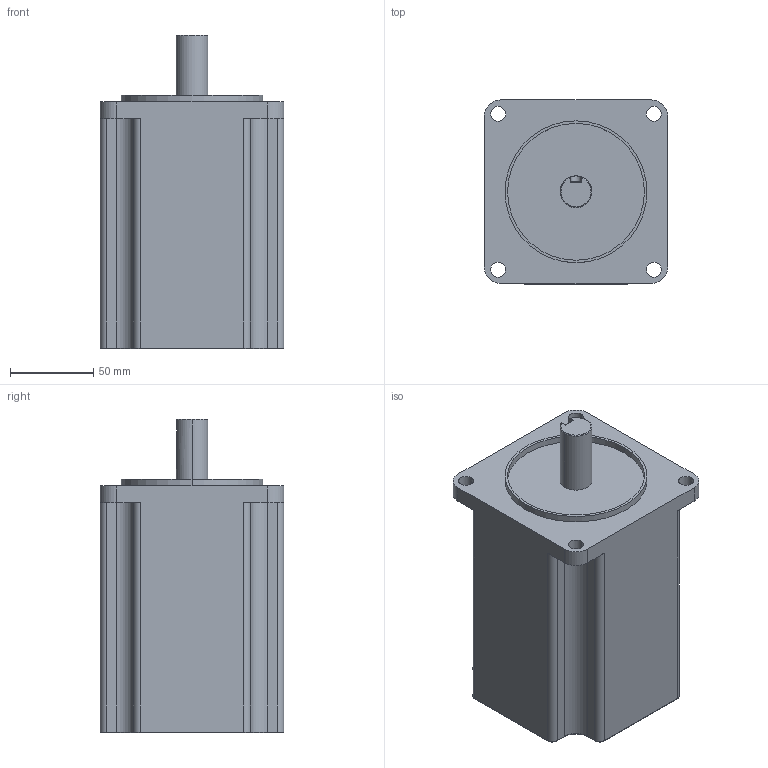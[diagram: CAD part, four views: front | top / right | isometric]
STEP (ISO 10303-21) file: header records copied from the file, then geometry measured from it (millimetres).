
FILE_DESCRIPTION (( 'STEP AP203' ), '1' );
FILE_NAME ('TM4202C60A.STEP', '2019-04-28T06:16:03', ( 'User' ), ( 'www.dadighost.com' ), 'SwSTEP 2.0', 'SolidWorks 2014', '' );
FILE_SCHEMA (( 'CONFIG_CONTROL_DESIGN' ));
Length unit declared in the file: millimetre
Products named in the file (1): TM4202C60A
Bounding box: 110 x 110 x 188 mm (x, y, z)
Volume: 1586953.1 mm3; surface area: 89888.6 mm2
Topology: 1 solids, 1 shells, 85 faces, 210 edges, 130 vertices
Faces by surface type: cylinder 46, plane 24, torus 15
Entity records: 2659 total; most frequent: DIRECTION 480, CARTESIAN_POINT 477, ORIENTED_EDGE 420, EDGE_CURVE 210, AXIS2_PLACEMENT_3D 189, VERTEX_POINT 130, CIRCLE 103, LINE 102
